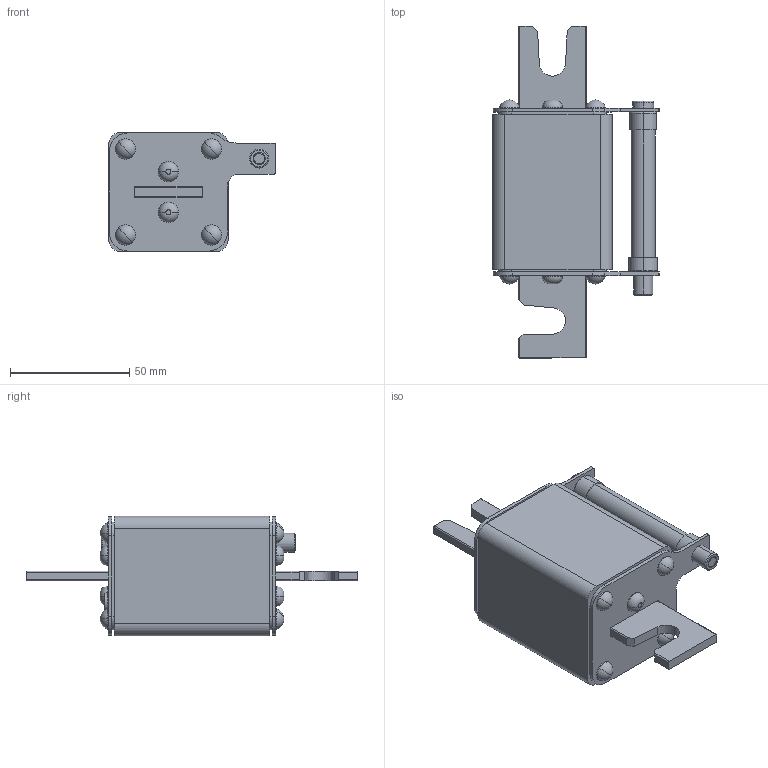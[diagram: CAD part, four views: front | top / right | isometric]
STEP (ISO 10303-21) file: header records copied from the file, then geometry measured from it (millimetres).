
FILE_DESCRIPTION (( 'STEP AP214' ), '1' );
FILE_NAME ('Ïðåäîõðàíèòåëü ÏÍÁ5-380_250-1.STEP', '2023-04-20T10:41:30', ( '' ), ( '' ), 'SwSTEP 2.0', 'SolidWorks 2018', '' );
FILE_SCHEMA (( 'AUTOMOTIVE_DESIGN' ));
Length unit declared in the file: millimetre
Products named in the file (1): Ïðåäîõðàíèòåëü ÏÍÁ5-380_250-1
Bounding box: 69.75 x 139 x 50 mm (x, y, z)
Volume: 184700.5 mm3; surface area: 32337.7 mm2
Topology: 1 solids, 24 shells, 407 faces, 902 edges, 574 vertices
Faces by surface type: cylinder 170, plane 131, torus 54, cone 36, sphere 16
Entity records: 15917 total; most frequent: DIRECTION 2234, CARTESIAN_POINT 1896, ORIENTED_EDGE 1804, AXIS2_PLACEMENT_3D 928, EDGE_CURVE 902, VERTEX_POINT 574, CIRCLE 520, EDGE_LOOP 464
